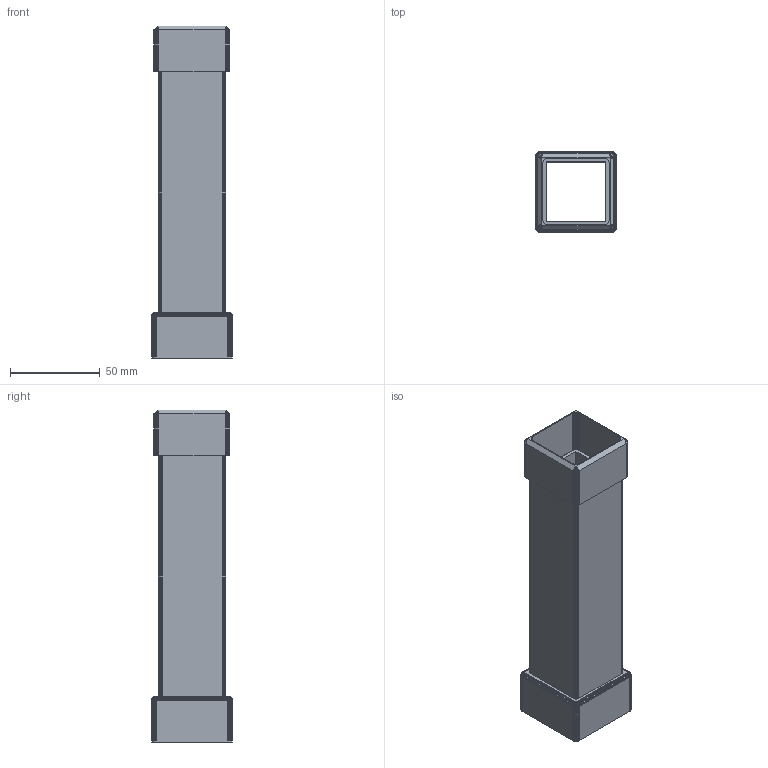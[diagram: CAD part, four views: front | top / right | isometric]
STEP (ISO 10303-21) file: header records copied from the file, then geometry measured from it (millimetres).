
FILE_DESCRIPTION(('Open CASCADE Model'),'2;1');
FILE_NAME('Open CASCADE Shape Model','2026-10-27T23:11:29',('Author'),( 'Open CASCADE'),'Open CASCADE STEP processor 7.9','Open CASCADE 7.9' ,'Unknown');
FILE_SCHEMA(('AUTOMOTIVE_DESIGN { 1 0 10303 214 1 1 1 1 }'));
Products named in the file (1): Open CASCADE STEP translator 7.9 1
Bounding box: 44.83 x 44.83 x 184.78 mm (x, y, z)
Volume: 59242.6 mm3; surface area: 56021.1 mm2
Topology: 1 solids, 1 shells, 1152 faces, 2078 edges, 932 vertices
Faces by surface type: plane 1152
Entity records: 52670 total; most frequent: DIRECTION 8540, CARTESIAN_POINT 8319, LINE 6234, VECTOR 6234, ORIENTED_EDGE 4156, PCURVE 4156, DEFINITIONAL_REPRESENTATION 4156, EDGE_CURVE 2078
